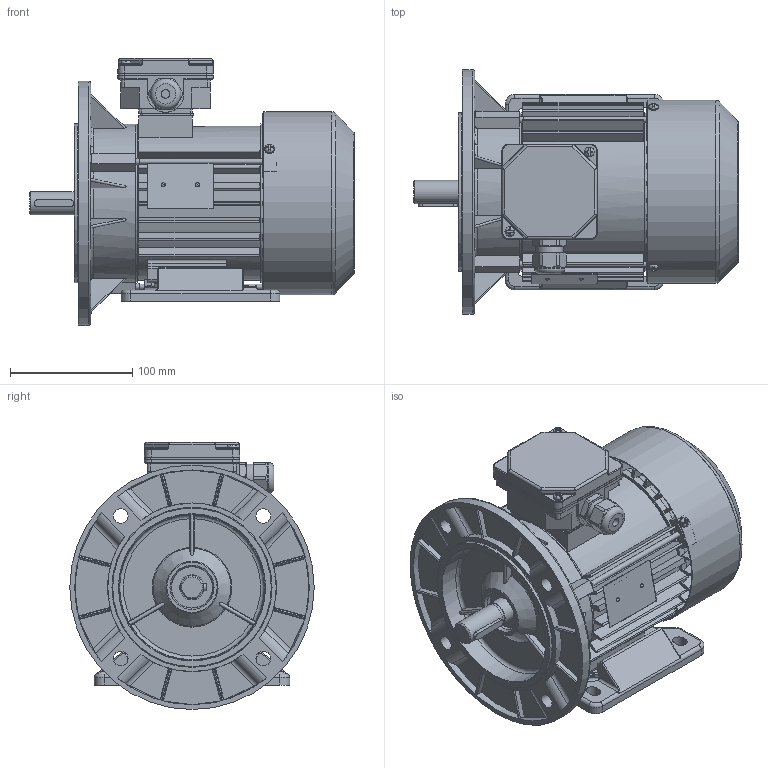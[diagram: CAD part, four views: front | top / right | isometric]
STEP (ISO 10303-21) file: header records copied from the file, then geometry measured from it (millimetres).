
FILE_DESCRIPTION(/* description */ ('Unknown'),/* implementation_level */ '2;1');
FILE_NAME(/* name */ '2SIEL80-4A',/* time_stamp */ '2021-04-12T14:56:15+02:00',/* author */ ('Unknown'),/* organization */ ('Unknown'),/* preprocessor_version */ 'ST-DEVELOPER v16.7',/* originating_system */ 'Solid Edge',/* authorisation */ 'Unknown');
FILE_SCHEMA (('AUTOMOTIVE_DESIGN {1 0 10303 214 3 1 1}'));
Products named in the file (1): 2SIEL80-4A
Bounding box: 265.79 x 200 x 218.5 mm (x, y, z)
Volume: 1085664.1 mm3; surface area: 547998.3 mm2
Topology: 3 solids, 3 shells, 2510 faces, 7089 edges, 4572 vertices
Faces by surface type: plane 1246, cylinder 874, bspline 144, torus 140, cone 88, sphere 18
Full cylindrical faces by diameter (mm): 2 x2, 2.4 x2, 3 x1, 3.7 x8, 4 x3, 4.5 x1, 4.6 x3, 4.8 x2, 5 x5, 5.5 x3, 6.5 x4, 7 x1, 8 x9, 12 x4, 18.598 x1, 18.998 x1, 19.298 x1, 19.498 x1, 20.298 x2, 20.398 x2, 20.4 x2, 22.3 x1, 25 x1, 25.497 x1, 25.647 x1, 25.997 x3, 26.047 x1, 28.799 x4, 34 x2, 38.198 x4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
Entity records: 99823 total; most frequent: CARTESIAN_POINT 20471, ORIENTED_EDGE 13444, DIRECTION 12717, EDGE_CURVE 6722, AXIS2_PLACEMENT_3D 4570, VERTEX_POINT 4463, LINE 3577, VECTOR 3577
